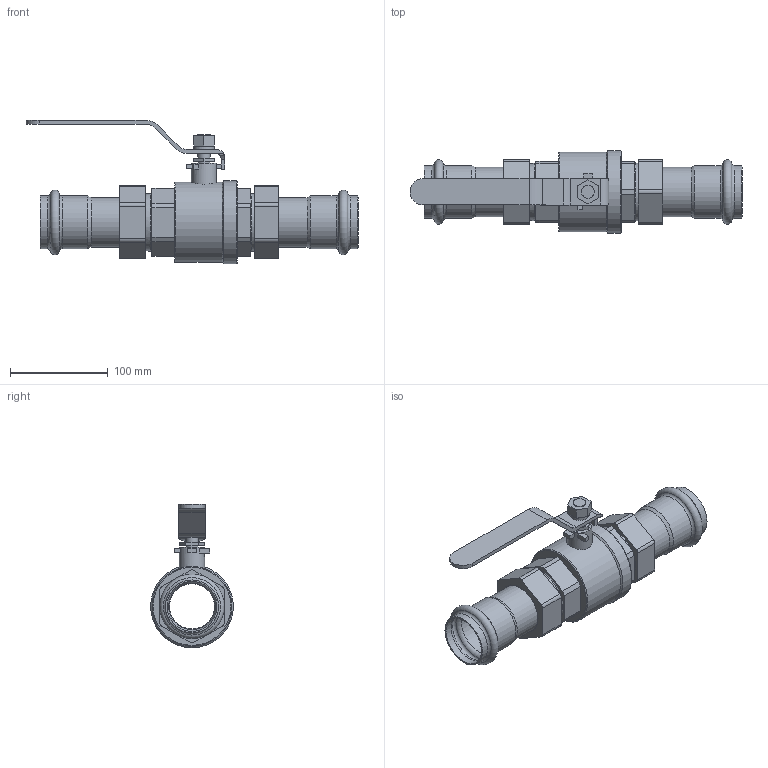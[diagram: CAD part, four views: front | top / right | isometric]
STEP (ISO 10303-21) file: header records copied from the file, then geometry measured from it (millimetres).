
FILE_DESCRIPTION(/* description */ (''),/* implementation_level */ '2;1');
FILE_NAME(/* name */ '51352050001.stp',/* time_stamp */ '2022-06-28T15:46:03+08:00',/* author */ (''),/* organization */ (''),/* preprocessor_version */ 'ST-DEVELOPER v11',/* originating_system */ 'SIEMENS PLM Software NX 7.5',/* authorisation */ '');
FILE_SCHEMA (('CONFIG_CONTROL_DESIGN'));
Length unit declared in the file: millimetre
Products named in the file (1): AdmiB4625zrv
Bounding box: 340.5 x 85 x 147.3 mm (x, y, z)
Volume: 479485.8 mm3; surface area: 173765.6 mm2
Topology: 5 solids, 5 shells, 209 faces, 481 edges, 305 vertices
Faces by surface type: plane 111, cylinder 55, torus 32, cone 11
Full cylindrical faces by diameter (mm): 13 x3, 21 x1, 25.8 x1, 46.4 x2, 47.8 x2, 49 x1, 50.25 x2, 50.8 x2, 51.2 x4, 51.45 x2, 51.8 x2, 54.2 x4, 56.4 x2, 57.05 x2, 82 x1, 85 x1
Entity records: 5599 total; most frequent: CARTESIAN_POINT 998, DIRECTION 960, ORIENTED_EDGE 796, EDGE_CURVE 398, AXIS2_PLACEMENT_3D 361, EDGE_LOOP 318, VERTEX_POINT 298, LINE 238
